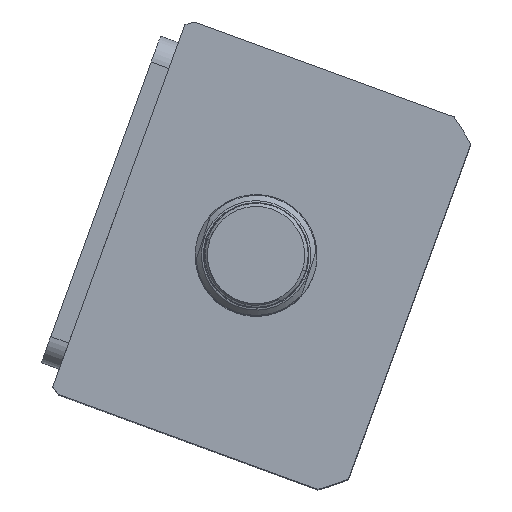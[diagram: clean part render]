
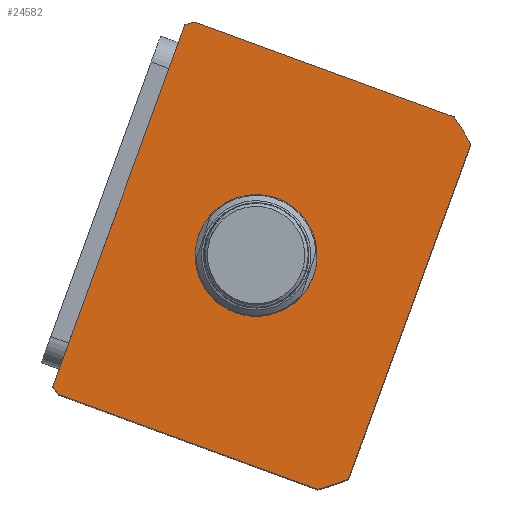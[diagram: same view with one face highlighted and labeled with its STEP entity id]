
A CAD part, top view. The second image highlights one B-rep face of the part: STEP entity #24582.
In plain terms, the highlighted planar face has unit normal (0, 0, 1) as drawn and (0, 0, -1) by its records, which use the part's own axes.
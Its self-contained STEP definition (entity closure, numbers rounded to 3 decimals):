
#422 = ORIENTED_EDGE ( 'NONE', *, *, #7493, .F. ) ;
#668 = ORIENTED_EDGE ( 'NONE', *, *, #16659, .F. ) ;
#845 = FACE_OUTER_BOUND ( 'NONE', #5143, .T. ) ;
#1167 = CIRCLE ( 'NONE', #24276, 17.5 ) ;
#1379 = AXIS2_PLACEMENT_3D ( 'NONE', #19546, #6695, #21725 ) ;
#1624 = VECTOR ( 'NONE', #5365, 1000. ) ;
#1781 = VERTEX_POINT ( 'NONE', #22863 ) ;
#1961 = CARTESIAN_POINT ( 'NONE',  ( 0., -59.497, 0. ) ) ;
#2256 = CIRCLE ( 'NONE', #21506, 17.5 ) ;
#3271 = CIRCLE ( 'NONE', #4718, 69.5 ) ;
#4114 = DIRECTION ( 'NONE',  ( 1., 0., 0. ) ) ;
#4264 = CARTESIAN_POINT ( 'NONE',  ( 57., -99.262, 0. ) ) ;
#4383 = DIRECTION ( 'NONE',  ( 0., -1., 0. ) ) ;
#4475 = AXIS2_PLACEMENT_3D ( 'NONE', #7629, #22680, #9769 ) ;
#4521 = CARTESIAN_POINT ( 'NONE',  ( 51.198, -106.497, 0. ) ) ;
#4718 = AXIS2_PLACEMENT_3D ( 'NONE', #22254, #9354, #24429 ) ;
#4786 = EDGE_CURVE ( 'NONE', #8977, #23476, #16087, .T. ) ;
#5143 = EDGE_LOOP ( 'NONE', ( #27843, #24119, #10654, #422, #10987, #8130, #668, #20144 ) ) ;
#5365 = DIRECTION ( 'NONE',  ( 1., 0., 0. ) ) ;
#5620 = VERTEX_POINT ( 'NONE', #13087 ) ;
#6467 = CARTESIAN_POINT ( 'NONE',  ( -57., -17.497, 0. ) ) ;
#6695 = DIRECTION ( 'NONE',  ( 0., 0., 1. ) ) ;
#6873 = CIRCLE ( 'NONE', #15588, 69.5 ) ;
#7248 = DIRECTION ( 'NONE',  ( 0., 0., 1. ) ) ;
#7493 = EDGE_CURVE ( 'NONE', #19620, #12801, #14383, .T. ) ;
#7629 = CARTESIAN_POINT ( 'NONE',  ( 0., -59.497, 0. ) ) ;
#7806 = DIRECTION ( 'NONE',  ( -1., 0., 0. ) ) ;
#8053 = EDGE_CURVE ( 'NONE', #11438, #19074, #3271, .T. ) ;
#8089 = CARTESIAN_POINT ( 'NONE',  ( 17.5, -59.497, 0. ) ) ;
#8130 = ORIENTED_EDGE ( 'NONE', *, *, #4786, .F. ) ;
#8795 = EDGE_CURVE ( 'NONE', #5620, #13297, #2256, .T. ) ;
#8977 = VERTEX_POINT ( 'NONE', #16442 ) ;
#9354 = DIRECTION ( 'NONE',  ( 0., 0., 1. ) ) ;
#9769 = DIRECTION ( 'NONE',  ( 1., 0., 0. ) ) ;
#10310 = VECTOR ( 'NONE', #7806, 1000. ) ;
#10403 = VECTOR ( 'NONE', #4383, 1000. ) ;
#10463 = VERTEX_POINT ( 'NONE', #4264 ) ;
#10654 = ORIENTED_EDGE ( 'NONE', *, *, #15564, .F. ) ;
#10956 = LINE ( 'NONE', #16330, #10310 ) ;
#10987 = ORIENTED_EDGE ( 'NONE', *, *, #24634, .F. ) ;
#11092 = CARTESIAN_POINT ( 'NONE',  ( -57., -99.262, 0. ) ) ;
#11438 = VERTEX_POINT ( 'NONE', #13404 ) ;
#12070 = CARTESIAN_POINT ( 'NONE',  ( 55.374, -17.497, 0. ) ) ;
#12712 = PLANE ( 'NONE',  #27900 ) ;
#12756 = DIRECTION ( 'NONE',  ( 0., 0., 1. ) ) ;
#12801 = VERTEX_POINT ( 'NONE', #4521 ) ;
#13087 = CARTESIAN_POINT ( 'NONE',  ( -17.5, -59.497, 0. ) ) ;
#13243 = EDGE_CURVE ( 'NONE', #19074, #1781, #10956, .T. ) ;
#13297 = VERTEX_POINT ( 'NONE', #8089 ) ;
#13404 = CARTESIAN_POINT ( 'NONE',  ( 57., -19.732, 0. ) ) ;
#13574 = ORIENTED_EDGE ( 'NONE', *, *, #15595, .T. ) ;
#14096 = FACE_BOUND ( 'NONE', #23787, .T. ) ;
#14383 = LINE ( 'NONE', #18227, #1624 ) ;
#14597 = CIRCLE ( 'NONE', #4475, 69.5 ) ;
#15038 = DIRECTION ( 'NONE',  ( 1., 0., 0. ) ) ;
#15564 = EDGE_CURVE ( 'NONE', #12801, #10463, #6873, .T. ) ;
#15588 = AXIS2_PLACEMENT_3D ( 'NONE', #1961, #16980, #4114 ) ;
#15595 = EDGE_CURVE ( 'NONE', #13297, #5620, #1167, .T. ) ;
#15950 = EDGE_CURVE ( 'NONE', #10463, #11438, #26379, .T. ) ;
#16087 = LINE ( 'NONE', #6467, #10403 ) ;
#16330 = CARTESIAN_POINT ( 'NONE',  ( -57., -17.497, 0. ) ) ;
#16442 = CARTESIAN_POINT ( 'NONE',  ( -57., -19.732, 0. ) ) ;
#16659 = EDGE_CURVE ( 'NONE', #1781, #8977, #14597, .T. ) ;
#16980 = DIRECTION ( 'NONE',  ( 0., 0., 1. ) ) ;
#18227 = CARTESIAN_POINT ( 'NONE',  ( -57., -106.497, 0. ) ) ;
#19074 = VERTEX_POINT ( 'NONE', #12070 ) ;
#19546 = CARTESIAN_POINT ( 'NONE',  ( 0., -59.497, 0. ) ) ;
#19620 = VERTEX_POINT ( 'NONE', #24357 ) ;
#19945 = CARTESIAN_POINT ( 'NONE',  ( 57., -17.497, 0. ) ) ;
#20107 = CARTESIAN_POINT ( 'NONE',  ( 0., -59.497, 0. ) ) ;
#20144 = ORIENTED_EDGE ( 'NONE', *, *, #13243, .F. ) ;
#20616 = DIRECTION ( 'NONE',  ( 0., 0., 1. ) ) ;
#21506 = AXIS2_PLACEMENT_3D ( 'NONE', #20107, #7248, #22286 ) ;
#21725 = DIRECTION ( 'NONE',  ( 1., 0., 0. ) ) ;
#22254 = CARTESIAN_POINT ( 'NONE',  ( 0., -59.497, 0. ) ) ;
#22286 = DIRECTION ( 'NONE',  ( 1., 0., 0. ) ) ;
#22680 = DIRECTION ( 'NONE',  ( 0., 0., 1. ) ) ;
#22863 = CARTESIAN_POINT ( 'NONE',  ( -55.374, -17.497, 0. ) ) ;
#23029 = ORIENTED_EDGE ( 'NONE', *, *, #8795, .T. ) ;
#23476 = VERTEX_POINT ( 'NONE', #11092 ) ;
#23638 = CARTESIAN_POINT ( 'NONE',  ( 0., 0., 0. ) ) ;
#23787 = EDGE_LOOP ( 'NONE', ( #13574, #23029 ) ) ;
#24119 = ORIENTED_EDGE ( 'NONE', *, *, #15950, .F. ) ;
#24276 = AXIS2_PLACEMENT_3D ( 'NONE', #25653, #12756, #27841 ) ;
#24357 = CARTESIAN_POINT ( 'NONE',  ( -51.198, -106.497, 0. ) ) ;
#24429 = DIRECTION ( 'NONE',  ( 1., 0., 0. ) ) ;
#24582 = ADVANCED_FACE ( 'NONE', ( #14096, #845 ), #12712, .F. ) ;
#24634 = EDGE_CURVE ( 'NONE', #23476, #19620, #27846, .T. ) ;
#25653 = CARTESIAN_POINT ( 'NONE',  ( 0., -59.497, 0. ) ) ;
#25733 = VECTOR ( 'NONE', #26275, 1000. ) ;
#26275 = DIRECTION ( 'NONE',  ( 0., 1., 0. ) ) ;
#26379 = LINE ( 'NONE', #19945, #25733 ) ;
#27841 = DIRECTION ( 'NONE',  ( 1., 0., 0. ) ) ;
#27843 = ORIENTED_EDGE ( 'NONE', *, *, #8053, .F. ) ;
#27846 = CIRCLE ( 'NONE', #1379, 69.5 ) ;
#27900 = AXIS2_PLACEMENT_3D ( 'NONE', #23638, #20616, #15038 ) ;
